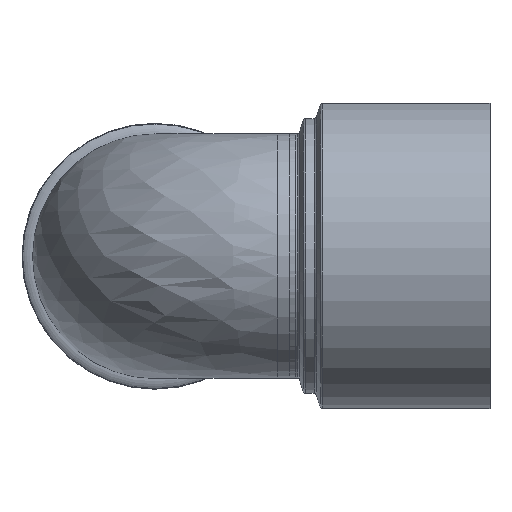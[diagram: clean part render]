
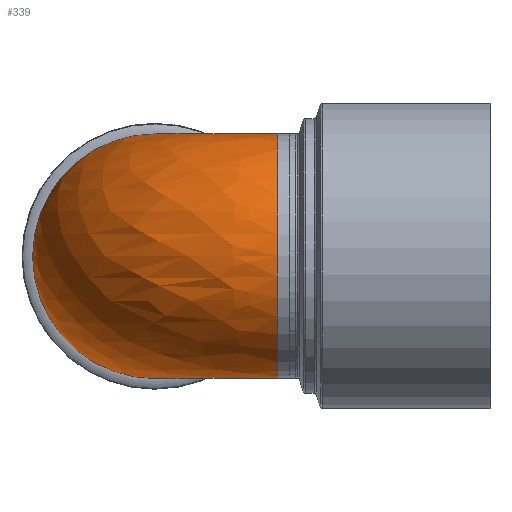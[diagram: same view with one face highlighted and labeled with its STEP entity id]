
A CAD part, top view. The second image highlights one B-rep face of the part: STEP entity #339.
In plain terms, the highlighted free-form (B-spline) face has degree [2, 2] with [9, 9] control points.
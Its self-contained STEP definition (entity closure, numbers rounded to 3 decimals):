
#22=(
BOUNDED_SURFACE()
B_SPLINE_SURFACE(2,2,((#576,#577,#578,#579,#580,#581,#582,#583,#584),(#585,
#586,#587,#588,#589,#590,#591,#592,#593),(#594,#595,#596,#597,#598,#599,
#600,#601,#602),(#603,#604,#605,#606,#607,#608,#609,#610,#611),(#612,#613,
#614,#615,#616,#617,#618,#619,#620),(#621,#622,#623,#624,#625,#626,#627,
#628,#629),(#630,#631,#632,#633,#634,#635,#636,#637,#638),(#639,#640,#641,
#642,#643,#644,#645,#646,#647),(#648,#649,#650,#651,#652,#653,#654,#655,
#656)),.UNSPECIFIED.,.T.,.T.,.F.)
B_SPLINE_SURFACE_WITH_KNOTS((3,2,2,2,3),(3,2,2,2,3),(-3.142,
-1.571,0.,1.571,3.142),(-3.142,
-1.571,0.,1.571,3.142),.UNSPECIFIED.)
GEOMETRIC_REPRESENTATION_ITEM()
RATIONAL_B_SPLINE_SURFACE(((1.,0.707,1.,0.707,1.,
0.707,1.,0.707,1.),(0.707,0.5,0.707,
0.5,0.707,0.5,0.707,0.5,0.707),(1.,
0.707,1.,0.707,1.,0.707,1.,0.707,
1.),(0.707,0.5,0.707,0.5,0.707,0.5,
0.707,0.5,0.707),(1.,0.707,1.,0.707,
1.,0.707,1.,0.707,1.),(0.707,0.5,0.707,
0.5,0.707,0.5,0.707,0.5,0.707),(1.,
0.707,1.,0.707,1.,0.707,1.,0.707,
1.),(0.707,0.5,0.707,0.5,0.707,0.5,
0.707,0.5,0.707),(1.,0.707,1.,0.707,
1.,0.707,1.,0.707,1.)))
REPRESENTATION_ITEM($)
SURFACE()
);
#85=FACE_OUTER_BOUND($,#121,.T.);
#121=EDGE_LOOP($,(#259,#260));
#167=CIRCLE($,#383,20.075);
#168=CIRCLE($,#384,20.075);
#195=VERTEX_POINT($,#574);
#222=EDGE_CURVE($,#195,#195,#167,.T.);
#223=EDGE_CURVE($,#195,#195,#168,.T.);
#259=ORIENTED_EDGE($,*,*,#222,.T.);
#260=ORIENTED_EDGE($,*,*,#223,.F.);
#339=ADVANCED_FACE($,(#85),#22,.F.);
#383=AXIS2_PLACEMENT_3D($,#575,#465,#466);
#384=AXIS2_PLACEMENT_3D($,#657,#467,#468);
#465=DIRECTION('center_axis',(-1.,0.,0.));
#466=DIRECTION('ref_axis',(0.,0.,1.));
#467=DIRECTION('center_axis',(0.,0.,-1.));
#468=DIRECTION('ref_axis',(-1.,0.,0.));
#574=CARTESIAN_POINT('',(20.075,0.,53.6));
#575=CARTESIAN_POINT('Origin',(20.075,0.,73.675));
#576=CARTESIAN_POINT('Ctrl Pts',(20.075,0.,53.6));
#577=CARTESIAN_POINT('Ctrl Pts',(20.075,0.,53.6));
#578=CARTESIAN_POINT('Ctrl Pts',(20.075,0.,53.6));
#579=CARTESIAN_POINT('Ctrl Pts',(20.075,0.,53.6));
#580=CARTESIAN_POINT('Ctrl Pts',(20.075,0.,53.6));
#581=CARTESIAN_POINT('Ctrl Pts',(20.075,0.,53.6));
#582=CARTESIAN_POINT('Ctrl Pts',(20.075,0.,53.6));
#583=CARTESIAN_POINT('Ctrl Pts',(20.075,0.,53.6));
#584=CARTESIAN_POINT('Ctrl Pts',(20.075,0.,53.6));
#585=CARTESIAN_POINT('Ctrl Pts',(20.075,-20.075,53.6));
#586=CARTESIAN_POINT('Ctrl Pts',(20.075,-20.075,53.6));
#587=CARTESIAN_POINT('Ctrl Pts',(20.075,-20.075,53.6));
#588=CARTESIAN_POINT('Ctrl Pts',(20.075,-20.075,53.6));
#589=CARTESIAN_POINT('Ctrl Pts',(20.075,-20.075,53.6));
#590=CARTESIAN_POINT('Ctrl Pts',(20.075,-20.075,53.6));
#591=CARTESIAN_POINT('Ctrl Pts',(20.075,-20.075,53.6));
#592=CARTESIAN_POINT('Ctrl Pts',(20.075,-20.075,53.6));
#593=CARTESIAN_POINT('Ctrl Pts',(20.075,-20.075,53.6));
#594=CARTESIAN_POINT('Ctrl Pts',(20.075,-20.075,33.525));
#595=CARTESIAN_POINT('Ctrl Pts',(0.,-20.075,33.525));
#596=CARTESIAN_POINT('Ctrl Pts',(0.,-20.075,53.6));
#597=CARTESIAN_POINT('Ctrl Pts',(0.,-20.075,73.675));
#598=CARTESIAN_POINT('Ctrl Pts',(20.075,-20.075,73.675));
#599=CARTESIAN_POINT('Ctrl Pts',(40.15,-20.075,73.675));
#600=CARTESIAN_POINT('Ctrl Pts',(40.15,-20.075,53.6));
#601=CARTESIAN_POINT('Ctrl Pts',(40.15,-20.075,33.525));
#602=CARTESIAN_POINT('Ctrl Pts',(20.075,-20.075,33.525));
#603=CARTESIAN_POINT('Ctrl Pts',(20.075,-20.075,13.45));
#604=CARTESIAN_POINT('Ctrl Pts',(-20.075,-20.075,13.45));
#605=CARTESIAN_POINT('Ctrl Pts',(-20.075,-20.075,53.6));
#606=CARTESIAN_POINT('Ctrl Pts',(-20.075,-20.075,93.75));
#607=CARTESIAN_POINT('Ctrl Pts',(20.075,-20.075,93.75));
#608=CARTESIAN_POINT('Ctrl Pts',(60.225,-20.075,93.75));
#609=CARTESIAN_POINT('Ctrl Pts',(60.225,-20.075,53.6));
#610=CARTESIAN_POINT('Ctrl Pts',(60.225,-20.075,13.45));
#611=CARTESIAN_POINT('Ctrl Pts',(20.075,-20.075,13.45));
#612=CARTESIAN_POINT('Ctrl Pts',(20.075,0.,13.45));
#613=CARTESIAN_POINT('Ctrl Pts',(-20.075,0.,13.45));
#614=CARTESIAN_POINT('Ctrl Pts',(-20.075,0.,53.6));
#615=CARTESIAN_POINT('Ctrl Pts',(-20.075,0.,93.75));
#616=CARTESIAN_POINT('Ctrl Pts',(20.075,0.,93.75));
#617=CARTESIAN_POINT('Ctrl Pts',(60.225,0.,93.75));
#618=CARTESIAN_POINT('Ctrl Pts',(60.225,0.,53.6));
#619=CARTESIAN_POINT('Ctrl Pts',(60.225,0.,13.45));
#620=CARTESIAN_POINT('Ctrl Pts',(20.075,0.,13.45));
#621=CARTESIAN_POINT('Ctrl Pts',(20.075,20.075,13.45));
#622=CARTESIAN_POINT('Ctrl Pts',(-20.075,20.075,13.45));
#623=CARTESIAN_POINT('Ctrl Pts',(-20.075,20.075,53.6));
#624=CARTESIAN_POINT('Ctrl Pts',(-20.075,20.075,93.75));
#625=CARTESIAN_POINT('Ctrl Pts',(20.075,20.075,93.75));
#626=CARTESIAN_POINT('Ctrl Pts',(60.225,20.075,93.75));
#627=CARTESIAN_POINT('Ctrl Pts',(60.225,20.075,53.6));
#628=CARTESIAN_POINT('Ctrl Pts',(60.225,20.075,13.45));
#629=CARTESIAN_POINT('Ctrl Pts',(20.075,20.075,13.45));
#630=CARTESIAN_POINT('Ctrl Pts',(20.075,20.075,33.525));
#631=CARTESIAN_POINT('Ctrl Pts',(0.,20.075,33.525));
#632=CARTESIAN_POINT('Ctrl Pts',(0.,20.075,53.6));
#633=CARTESIAN_POINT('Ctrl Pts',(0.,20.075,73.675));
#634=CARTESIAN_POINT('Ctrl Pts',(20.075,20.075,73.675));
#635=CARTESIAN_POINT('Ctrl Pts',(40.15,20.075,73.675));
#636=CARTESIAN_POINT('Ctrl Pts',(40.15,20.075,53.6));
#637=CARTESIAN_POINT('Ctrl Pts',(40.15,20.075,33.525));
#638=CARTESIAN_POINT('Ctrl Pts',(20.075,20.075,33.525));
#639=CARTESIAN_POINT('Ctrl Pts',(20.075,20.075,53.6));
#640=CARTESIAN_POINT('Ctrl Pts',(20.075,20.075,53.6));
#641=CARTESIAN_POINT('Ctrl Pts',(20.075,20.075,53.6));
#642=CARTESIAN_POINT('Ctrl Pts',(20.075,20.075,53.6));
#643=CARTESIAN_POINT('Ctrl Pts',(20.075,20.075,53.6));
#644=CARTESIAN_POINT('Ctrl Pts',(20.075,20.075,53.6));
#645=CARTESIAN_POINT('Ctrl Pts',(20.075,20.075,53.6));
#646=CARTESIAN_POINT('Ctrl Pts',(20.075,20.075,53.6));
#647=CARTESIAN_POINT('Ctrl Pts',(20.075,20.075,53.6));
#648=CARTESIAN_POINT('Ctrl Pts',(20.075,0.,53.6));
#649=CARTESIAN_POINT('Ctrl Pts',(20.075,0.,53.6));
#650=CARTESIAN_POINT('Ctrl Pts',(20.075,0.,53.6));
#651=CARTESIAN_POINT('Ctrl Pts',(20.075,0.,53.6));
#652=CARTESIAN_POINT('Ctrl Pts',(20.075,0.,53.6));
#653=CARTESIAN_POINT('Ctrl Pts',(20.075,0.,53.6));
#654=CARTESIAN_POINT('Ctrl Pts',(20.075,0.,53.6));
#655=CARTESIAN_POINT('Ctrl Pts',(20.075,0.,53.6));
#656=CARTESIAN_POINT('Ctrl Pts',(20.075,0.,53.6));
#657=CARTESIAN_POINT('Origin',(0.,0.,53.6));
